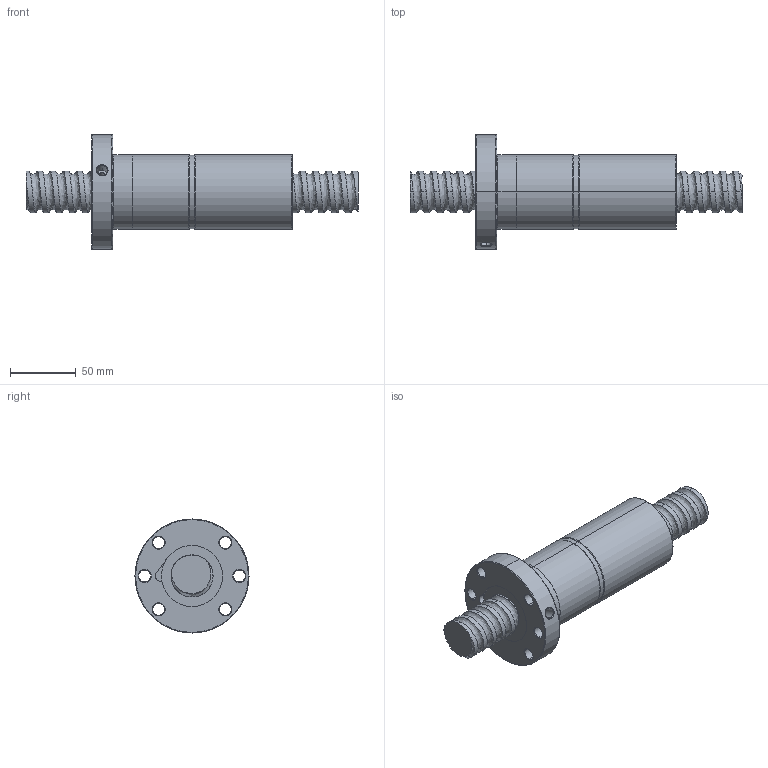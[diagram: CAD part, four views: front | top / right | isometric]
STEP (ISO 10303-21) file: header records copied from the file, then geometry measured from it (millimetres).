
FILE_DESCRIPTION (( 'STEP AP214' ), '1' );
FILE_NAME ('FDDC03210T5-F-A.STEP', '2010-07-06T05:21:09', ( 'XPAUTO' ), ( 'XPAUTO' ), 'SwSTEP 2.0', 'SolidWorks 2007', '' );
FILE_SCHEMA (( 'AUTOMOTIVE_DESIGN' ));
Length unit declared in the file: millimetre
Products named in the file (3): FDDC03210T5-F-A.sldasm-Part-2_預設; FDDC03210T5-F-A.sldasm-Part-1_預設; FDDC03210T5-F-A
Assembly tree (2 placements, depth 2):
  FDDC03210T5-F-A
    FDDC03210T5-F-A.sldasm-Part-1_預設
    FDDC03210T5-F-A.sldasm-Part-2_預設
Bounding box: 253 x 87 x 87 mm (x, y, z)
Volume: 486730.7 mm3; surface area: 88504.3 mm2
Topology: 2 solids, 2 shells, 148 faces, 374 edges, 235 vertices
Faces by surface type: cylinder 93, cone 24, plane 16, torus 10, bspline 5
Entity records: 45928 total; most frequent: CARTESIAN_POINT 42419, ORIENTED_EDGE 748, DIRECTION 670, EDGE_CURVE 374, AXIS2_PLACEMENT_3D 273, VERTEX_POINT 235, EDGE_LOOP 169, ADVANCED_FACE 148
